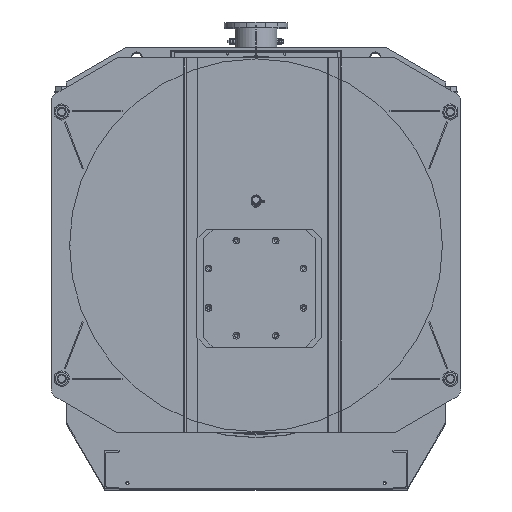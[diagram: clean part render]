
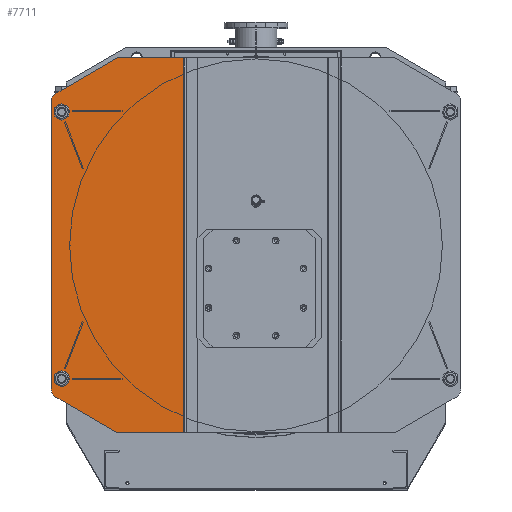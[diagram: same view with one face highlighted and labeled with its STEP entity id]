
A CAD part, top view. The second image highlights one B-rep face of the part: STEP entity #7711.
In plain terms, the highlighted planar face has unit normal (0, 0, 1).
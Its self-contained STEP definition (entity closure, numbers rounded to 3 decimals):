
#7711=ADVANCED_FACE('',(#21065,#21067,#21069),#21071,.F.);
#21065=FACE_BOUND('',#21066,.T.);
#21066=EDGE_LOOP('',(#34550,#34551,#34552,#34553,#34554,#34555,#34556,#34557));
#21067=FACE_BOUND('',#21068,.T.);
#21068=EDGE_LOOP('',(#34558));
#21069=FACE_BOUND('',#21070,.T.);
#21070=EDGE_LOOP('',(#34559));
#21071=PLANE('',#21072);
#21072=AXIS2_PLACEMENT_3D('',#21073,#21074,#21075);
#21073=CARTESIAN_POINT('',(0.,-225.,420.));
#21074=DIRECTION('',(0.,0.,-1.));
#21075=DIRECTION('',(-1.,0.,0.));
#34550=ORIENTED_EDGE('',*,*,#42014,.F.);
#34551=ORIENTED_EDGE('',*,*,#41793,.F.);
#34552=ORIENTED_EDGE('',*,*,#41790,.F.);
#34553=ORIENTED_EDGE('',*,*,#41788,.F.);
#34554=ORIENTED_EDGE('',*,*,#41786,.F.);
#34555=ORIENTED_EDGE('',*,*,#41785,.F.);
#34556=ORIENTED_EDGE('',*,*,#41783,.F.);
#34557=ORIENTED_EDGE('',*,*,#41781,.F.);
#34558=ORIENTED_EDGE('',*,*,#42017,.T.);
#34559=ORIENTED_EDGE('',*,*,#42018,.T.);
#41781=EDGE_CURVE('',#47913,#47885,#47915,.T.);
#41783=EDGE_CURVE('',#47885,#47916,#47918,.F.);
#41785=EDGE_CURVE('',#47916,#47919,#47921,.F.);
#41786=EDGE_CURVE('',#47919,#47922,#47923,.T.);
#41788=EDGE_CURVE('',#47922,#47925,#47926,.F.);
#41790=EDGE_CURVE('',#47925,#47928,#47929,.F.);
#41793=EDGE_CURVE('',#47928,#47933,#47934,.T.);
#42014=EDGE_CURVE('',#47933,#47913,#48309,.F.);
#42017=EDGE_CURVE('',#48313,#48313,#48314,.T.);
#42018=EDGE_CURVE('',#48315,#48315,#48316,.T.);
#47885=VERTEX_POINT('',#62433);
#47913=VERTEX_POINT('',#62493);
#47915=LINE('',#62497,#62498);
#47916=VERTEX_POINT('',#62500);
#47918=LINE('',#62504,#62505);
#47919=VERTEX_POINT('',#62507);
#47921=CIRCLE('',#62511,50.);
#47922=VERTEX_POINT('',#62515);
#47923=LINE('',#62516,#62517);
#47925=VERTEX_POINT('',#62522);
#47926=CIRCLE('',#62523,50.);
#47928=VERTEX_POINT('',#62530);
#47929=LINE('',#62531,#62532);
#47933=VERTEX_POINT('',#62541);
#47934=LINE('',#62542,#62543);
#48309=LINE('',#64198,#64199);
#48313=VERTEX_POINT('',#64208);
#48314=CIRCLE('',#64209,35.);
#48315=VERTEX_POINT('',#64213);
#48316=CIRCLE('',#64214,35.);
#62433=CARTESIAN_POINT('',(-725.,-985.,420.));
#62493=CARTESIAN_POINT('',(-380.,-985.,420.));
#62497=CARTESIAN_POINT('',(-380.,-985.,420.));
#62498=VECTOR('',#62499,1.);
#62499=DIRECTION('',(-1.,0.,0.));
#62500=CARTESIAN_POINT('',(-1050.,-797.361,420.));
#62504=CARTESIAN_POINT('',(-1050.,-797.361,420.));
#62505=VECTOR('',#62506,1.);
#62506=DIRECTION('',(0.866,-0.5,0.));
#62507=CARTESIAN_POINT('',(-1075.,-754.06,420.));
#62511=AXIS2_PLACEMENT_3D('',#62512,#62513,#62514);
#62512=CARTESIAN_POINT('',(-1025.,-754.06,420.));
#62513=DIRECTION('',(0.,0.,1.));
#62514=DIRECTION('',(-1.,0.,0.));
#62515=CARTESIAN_POINT('',(-1075.,754.06,420.));
#62516=CARTESIAN_POINT('',(-1075.,-754.06,420.));
#62517=VECTOR('',#62518,1.);
#62518=DIRECTION('',(0.,1.,0.));
#62522=CARTESIAN_POINT('',(-1050.,797.361,420.));
#62523=AXIS2_PLACEMENT_3D('',#62524,#62525,#62526);
#62524=CARTESIAN_POINT('',(-1025.,754.06,420.));
#62525=DIRECTION('',(0.,0.,1.));
#62526=DIRECTION('',(-0.5,0.866,0.));
#62530=CARTESIAN_POINT('',(-725.,985.,420.));
#62531=CARTESIAN_POINT('',(-725.,985.,420.));
#62532=VECTOR('',#62533,1.);
#62533=DIRECTION('',(-0.866,-0.5,0.));
#62541=CARTESIAN_POINT('',(-380.,985.,420.));
#62542=CARTESIAN_POINT('',(-725.,985.,420.));
#62543=VECTOR('',#62544,1.);
#62544=DIRECTION('',(1.,0.,0.));
#64198=CARTESIAN_POINT('',(-380.,-985.,420.));
#64199=VECTOR('',#64200,1.);
#64200=DIRECTION('',(0.,1.,0.));
#64208=CARTESIAN_POINT('',(-1055.,700.,420.));
#64209=AXIS2_PLACEMENT_3D('',#64210,#64211,#64212);
#64210=CARTESIAN_POINT('',(-1020.,700.,420.));
#64211=DIRECTION('',(0.,0.,-1.));
#64212=DIRECTION('',(-1.,0.,0.));
#64213=CARTESIAN_POINT('',(-1055.,-700.,420.));
#64214=AXIS2_PLACEMENT_3D('',#64215,#64216,#64217);
#64215=CARTESIAN_POINT('',(-1020.,-700.,420.));
#64216=DIRECTION('',(0.,0.,-1.));
#64217=DIRECTION('',(-1.,0.,0.));
